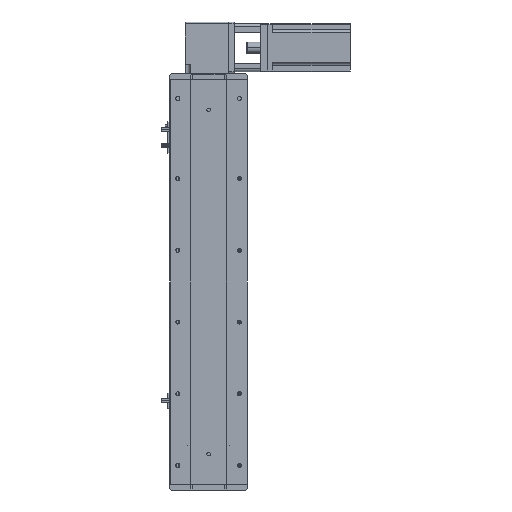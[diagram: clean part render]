
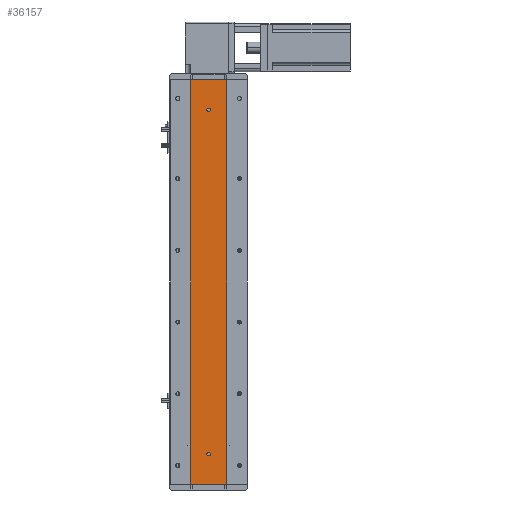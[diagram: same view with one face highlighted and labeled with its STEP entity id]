
A CAD part, left-side view. The second image highlights one B-rep face of the part: STEP entity #36157.
In plain terms, the highlighted planar face has unit normal (-1, 0, 0).
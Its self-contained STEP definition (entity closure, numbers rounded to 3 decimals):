
#264 = EDGE_CURVE ( 'NONE', #4326, #3149, #38840, .T. ) ;
#406 = ORIENTED_EDGE ( 'NONE', *, *, #26817, .F. ) ;
#504 = EDGE_LOOP ( 'NONE', ( #22581, #406, #22396, #41946 ) ) ;
#668 = CARTESIAN_POINT ( 'NONE',  ( -24.994, 29.785, 0. ) ) ;
#1151 = DIRECTION ( 'NONE',  ( -1., 0., 0. ) ) ;
#2402 = EDGE_LOOP ( 'NONE', ( #33251, #23206 ) ) ;
#3149 = VERTEX_POINT ( 'NONE', #23643 ) ;
#3379 = CARTESIAN_POINT ( 'NONE',  ( -24.994, 29.785, 676. ) ) ;
#3402 = VERTEX_POINT ( 'NONE', #22940 ) ;
#3581 = CARTESIAN_POINT ( 'NONE',  ( -24.994, -29.785, 0. ) ) ;
#3821 = DIRECTION ( 'NONE',  ( 0., -1., 0. ) ) ;
#4226 = DIRECTION ( 'NONE',  ( 0., -1., 0. ) ) ;
#4326 = VERTEX_POINT ( 'NONE', #3379 ) ;
#5146 = EDGE_CURVE ( 'NONE', #7724, #9732, #40790, .T. ) ;
#5769 = CIRCLE ( 'NONE', #41719, 3. ) ;
#6356 = DIRECTION ( 'NONE',  ( -1., 0., 0. ) ) ;
#7724 = VERTEX_POINT ( 'NONE', #35177 ) ;
#9516 = DIRECTION ( 'NONE',  ( 0., 0., -1. ) ) ;
#9732 = VERTEX_POINT ( 'NONE', #34942 ) ;
#10154 = DIRECTION ( 'NONE',  ( -1., 0., 0. ) ) ;
#13736 = EDGE_LOOP ( 'NONE', ( #31192, #28483 ) ) ;
#14223 = VECTOR ( 'NONE', #4226, 1000. ) ;
#15328 = VECTOR ( 'NONE', #20551, 1000. ) ;
#18440 = EDGE_CURVE ( 'NONE', #43915, #39263, #42543, .T. ) ;
#19241 = CARTESIAN_POINT ( 'NONE',  ( -24.994, 29.785, 676. ) ) ;
#20008 = VECTOR ( 'NONE', #3821, 1000. ) ;
#20324 = EDGE_CURVE ( 'NONE', #9732, #7724, #27851, .T. ) ;
#20365 = VERTEX_POINT ( 'NONE', #29465 ) ;
#20551 = DIRECTION ( 'NONE',  ( 0., 0., -1. ) ) ;
#21928 = LINE ( 'NONE', #30736, #40796 ) ;
#22292 = AXIS2_PLACEMENT_3D ( 'NONE', #22326, #1151, #25899 ) ;
#22326 = CARTESIAN_POINT ( 'NONE',  ( -24.994, 0., 50. ) ) ;
#22396 = ORIENTED_EDGE ( 'NONE', *, *, #264, .F. ) ;
#22581 = ORIENTED_EDGE ( 'NONE', *, *, #18440, .T. ) ;
#22810 = DIRECTION ( 'NONE',  ( 0., 0., -1. ) ) ;
#22940 = CARTESIAN_POINT ( 'NONE',  ( -24.994, 0., 623. ) ) ;
#23206 = ORIENTED_EDGE ( 'NONE', *, *, #5146, .F. ) ;
#23643 = CARTESIAN_POINT ( 'NONE',  ( -24.994, -29.785, 676. ) ) ;
#24753 = LINE ( 'NONE', #34662, #15328 ) ;
#25784 = EDGE_CURVE ( 'NONE', #4326, #43915, #21928, .T. ) ;
#25899 = DIRECTION ( 'NONE',  ( 0., 0., 1. ) ) ;
#26817 = EDGE_CURVE ( 'NONE', #3149, #39263, #24753, .T. ) ;
#26869 = EDGE_CURVE ( 'NONE', #20365, #3402, #43655, .T. ) ;
#27507 = CARTESIAN_POINT ( 'NONE',  ( -24.994, 0., 626. ) ) ;
#27851 = CIRCLE ( 'NONE', #22292, 3. ) ;
#28483 = ORIENTED_EDGE ( 'NONE', *, *, #43113, .F. ) ;
#28568 = DIRECTION ( 'NONE',  ( 0., 0., 1. ) ) ;
#29465 = CARTESIAN_POINT ( 'NONE',  ( -24.994, 0., 629. ) ) ;
#30736 = CARTESIAN_POINT ( 'NONE',  ( -24.994, 29.785, 676. ) ) ;
#30839 = FACE_OUTER_BOUND ( 'NONE', #504, .T. ) ;
#30893 = CARTESIAN_POINT ( 'NONE',  ( -24.994, 29.785, 676. ) ) ;
#31066 = DIRECTION ( 'NONE',  ( 0., 0., 1. ) ) ;
#31192 = ORIENTED_EDGE ( 'NONE', *, *, #26869, .F. ) ;
#31368 = CARTESIAN_POINT ( 'NONE',  ( -24.994, 0., 626. ) ) ;
#31933 = FACE_BOUND ( 'NONE', #2402, .T. ) ;
#33251 = ORIENTED_EDGE ( 'NONE', *, *, #20324, .F. ) ;
#34662 = CARTESIAN_POINT ( 'NONE',  ( -24.994, -29.785, 676. ) ) ;
#34942 = CARTESIAN_POINT ( 'NONE',  ( -24.994, 0., 53. ) ) ;
#34965 = DIRECTION ( 'NONE',  ( 0., 0., 1. ) ) ;
#35177 = CARTESIAN_POINT ( 'NONE',  ( -24.994, 0., 47. ) ) ;
#36157 = ADVANCED_FACE ( 'NONE', ( #40290, #31933, #30839 ), #40324, .F. ) ;
#38177 = AXIS2_PLACEMENT_3D ( 'NONE', #40502, #43007, #28568 ) ;
#38840 = LINE ( 'NONE', #30893, #20008 ) ;
#39263 = VERTEX_POINT ( 'NONE', #3581 ) ;
#39544 = CARTESIAN_POINT ( 'NONE',  ( -24.994, 29.785, 0. ) ) ;
#40290 = FACE_BOUND ( 'NONE', #13736, .T. ) ;
#40324 = PLANE ( 'NONE',  #44360 ) ;
#40502 = CARTESIAN_POINT ( 'NONE',  ( -24.994, 0., 50. ) ) ;
#40790 = CIRCLE ( 'NONE', #38177, 3. ) ;
#40796 = VECTOR ( 'NONE', #9516, 1000. ) ;
#41719 = AXIS2_PLACEMENT_3D ( 'NONE', #27507, #6356, #31066 ) ;
#41946 = ORIENTED_EDGE ( 'NONE', *, *, #25784, .T. ) ;
#42056 = AXIS2_PLACEMENT_3D ( 'NONE', #31368, #10154, #34965 ) ;
#42543 = LINE ( 'NONE', #668, #14223 ) ;
#43007 = DIRECTION ( 'NONE',  ( -1., 0., 0. ) ) ;
#43113 = EDGE_CURVE ( 'NONE', #3402, #20365, #5769, .T. ) ;
#43655 = CIRCLE ( 'NONE', #42056, 3. ) ;
#43915 = VERTEX_POINT ( 'NONE', #39544 ) ;
#44077 = DIRECTION ( 'NONE',  ( 1., 0., 0. ) ) ;
#44360 = AXIS2_PLACEMENT_3D ( 'NONE', #19241, #44077, #22810 ) ;
